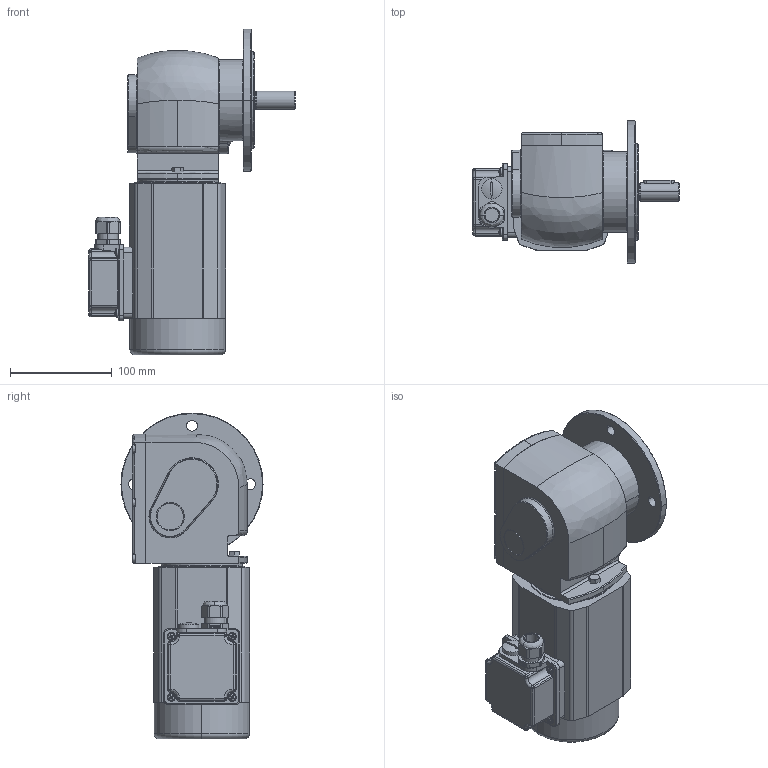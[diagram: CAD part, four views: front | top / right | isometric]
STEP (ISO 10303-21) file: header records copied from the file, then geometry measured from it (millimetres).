
FILE_DESCRIPTION (( 'STEP AP214' ), '1' );
FILE_NAME ('SN13F_120W_Gleichstrom-Motor_D.STEP', '2022-08-05T07:26:26', ( '' ), ( '' ), 'SwSTEP 2.0', 'SolidWorks 2021', '' );
FILE_SCHEMA (( 'AUTOMOTIVE_DESIGN' ));
Length unit declared in the file: millimetre
Products named in the file (15): 03-M-252 I 120W_3000Upm; socket set screw flat point_iso_ISO 4026 - M6 x 30-C; 13F-W-004_3D-Export; NBR_WDR_20x42x7; slotted cheese head screw_iso_ISO 1207 - M5 x 12 - 12C; SN13F_3D-Export; 13F-F-006; SN13F_120W_Gleichstrom-Motor_D; 13-D-003_3D-Export; 13-G-006_3D-Export; K_26x6,5; hex screw gradec_iso_ISO 4018 - M6 x 20-NC; slotted cheese head screw_din_DIN EN ISO 1207 - M5 x 20 - 20C; PF_A6x6x30; slotted cheese head screw_iso_ISO 1207 - M5 x 20 - 20C
Assembly tree (26 placements, depth 3):
  SN13F_120W_Gleichstrom-Motor_D
    SN13F_3D-Export
      13-G-006_3D-Export
      13-D-003_3D-Export
      13F-W-004_3D-Export
      13F-F-006
      PF_A6x6x30
      K_26x6,5
      NBR_WDR_20x42x7
      slotted cheese head screw_din_DIN EN ISO 1207 - M5 x 20 - 20C  x4
      slotted cheese head screw_iso_ISO 1207 - M5 x 12 - 12C  x8
      slotted cheese head screw_iso_ISO 1207 - M5 x 20 - 20C  x2
      hex screw gradec_iso_ISO 4018 - M6 x 20-NC
      socket set screw flat point_iso_ISO 4026 - M6 x 30-C  x2
    03-M-252 I 120W_3000Upm
Bounding box: 203.2 x 140 x 321 mm (x, y, z)
Volume: 2929947.2 mm3; surface area: 261729.6 mm2
Topology: 26 solids, 27 shells, 1049 faces, 2608 edges, 1656 vertices
Faces by surface type: plane 350, cylinder 330, cone 181, torus 118, bspline 46, sphere 24
Entity records: 30015 total; most frequent: CARTESIAN_POINT 7433, DIRECTION 4652, ORIENTED_EDGE 4404, EDGE_CURVE 2202, AXIS2_PLACEMENT_3D 1867, VERTEX_POINT 1416, EDGE_LOOP 1010, CIRCLE 992
